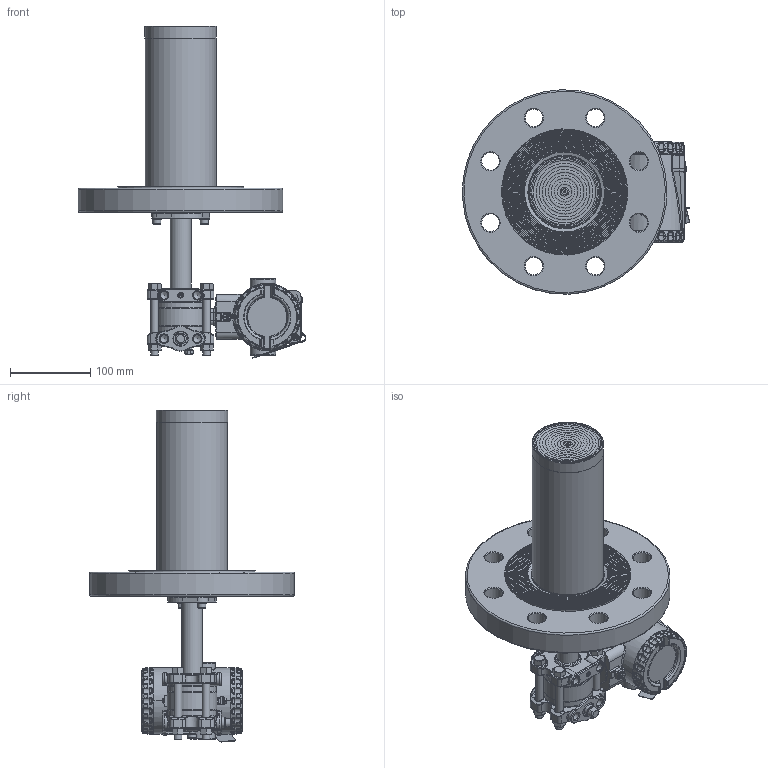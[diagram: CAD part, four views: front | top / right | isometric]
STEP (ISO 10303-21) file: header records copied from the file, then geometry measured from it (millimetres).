
FILE_DESCRIPTION(/* description */ (''),/* implementation_level */ '2;1');
FILE_NAME(/* name */ 'F:\Area\Desenvolvimento_2\Projects\Sensor\projetos\LD400-3d\dimensionais 3D clientes\LD400L\LD400L 4-300 RF ext 200 ref 1-4NPT purga acima.stp',/* time_stamp */ '2023-02-23T16:53:46-03:00',/* author */ ('inventor02'),/* organization */ (''),/* preprocessor_version */ 'ST-DEVELOPER v17',/* originating_system */ 'Autodesk Inventor 2019',/* authorisation */ '');
FILE_SCHEMA (('CONFIG_CONTROL_DESIGN'));
Products named in the file (41): LD30XL 4-300 RF ext 200 ref 1-4NPT purga acima; 204-0301-L-4 300 RF ext 200 purga acima; nivel fx3 com baixa diferencial 1-4NPT purga acima; involucro fx0-3 apos a usinagem final; flange diferencial std purga; 101-C-7484-01 flange selo nivel VR; 201-A-0504-tubo união teste 1; bujao 1-4NPT; Sangria; Porca 3-8 x 16 UNC; Paraf. 3-8 x 16 UNC; adaptação tubo x flanges 1-1-2 a 4pol; 101-B-0161-anel cortado do tubo - teste1; 101-B-0162-flange fixação tubo; ANSI B18.3.1M - M6x1 x 16; DIN 127 - A 6; flange 4 300 ext 200; 101-C-0123-09; 096-B-0212-15; 101-B-7702-02 ext 4-200; Carcaça 400 com tampas e plaqueta sem letras; 101-D-0845-05 carcaça LD400 sem letras; 101-B-3614-03-tampa 400 sem letras; Tampa visor 400 montada sem letras; 101-B-3612-05 tampa visor 400 sem letras; 101-A-6107; oring 2034; 00034775-0; WHW_250; DIN 915 - M6 x 10; Chapa aterramento externo; 201-A-1771-02 inserto terra recartilhado; AS 1969 - ST4,2; ISO 1207 - M4 x 8; ANSI B18.3.1M - M4x0,7 x 8; Subconjunto plaqueta 400; plaqueta 400 em branco; Parafuso da Plaqueta; Rebite da Plaqueta; 096-A-0169-03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
Assembly tree (50 placements, depth 4):
  LD30XL 4-300 RF ext 200 ref 1-4NPT purga acima
    204-0301-L-4 300 RF ext 200 purga acima
      nivel fx3 com baixa diferencial 1-4NPT purga acima
        involucro fx0-3 apos a usinagem final
        flange diferencial std purga
        101-C-7484-01 flange selo nivel VR
        201-A-0504-tubo união teste 1
        DIN 915 - M6 x 10
        bujao 1-4NPT
        Sangria
        Porca 3-8 x 16 UNC  x4
        Paraf. 3-8 x 16 UNC  x4
      adaptação tubo x flanges 1-1-2 a 4pol
        101-B-0161-anel cortado do tubo - teste1
        101-B-0162-flange fixação tubo
        ANSI B18.3.1M - M6x1 x 16  x2
        DIN 127 - A 6  x2
      flange 4 300 ext 200
        101-C-0123-09
        096-B-0212-15
        101-B-7702-02 ext 4-200
    Carcaça 400 com tampas e plaqueta sem letras
      101-D-0845-05 carcaça LD400 sem letras
      101-B-3614-03-tampa 400 sem letras
      Tampa visor 400 montada sem letras
        101-B-3612-05 tampa visor 400 sem letras
        101-A-6107
        oring 2034
        00034775-0
        WHW_250
      DIN 915 - M6 x 10
      Chapa aterramento externo
      201-A-1771-02 inserto terra recartilhado
      AS 1969 - ST4,2
      ISO 1207 - M4 x 8
      ANSI B18.3.1M - M4x0,7 x 8  x2
      Subconjunto plaqueta 400
        plaqueta 400 em branco
        Parafuso da Plaqueta
        Rebite da Plaqueta
        096-A-0169-03
        101-A-0502-01
Bounding box: 283.13 x 254.76 x 413.62 mm (x, y, z)
Volume: 2454229 mm3; surface area: 514865.4 mm2
Topology: 43 solids, 43 shells, 2834 faces, 6835 edges, 4112 vertices
Faces by surface type: plane 751, cylinder 668, bspline 604, torus 505, cone 230, sphere 76
Full cylindrical faces by diameter (mm): 2 x4, 2.1 x1, 2.2 x1, 2.459 x3, 2.5 x1, 2.7 x1, 2.8 x1, 3 x4, 3.242 x3, 3.5 x1, 3.571 x1, 4 x5, 4.3 x2, 4.4 x1, 4.917 x4, 5 x1, 5.5 x3, 6 x6, 6.1 x2, 6.2 x1, 6.647 x1, 7 x5, 7.6 x2, 7.798 x4, 8 x1, 9.525 x4, 9.728 x6, 10 x2, 10.5 x8, 10.719 x2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
Entity records: 100423 total; most frequent: CARTESIAN_POINT 37343, DIRECTION 13070, ORIENTED_EDGE 12910, EDGE_CURVE 6455, AXIS2_PLACEMENT_3D 5618, VERTEX_POINT 3918, CIRCLE 3271, EDGE_LOOP 2907
